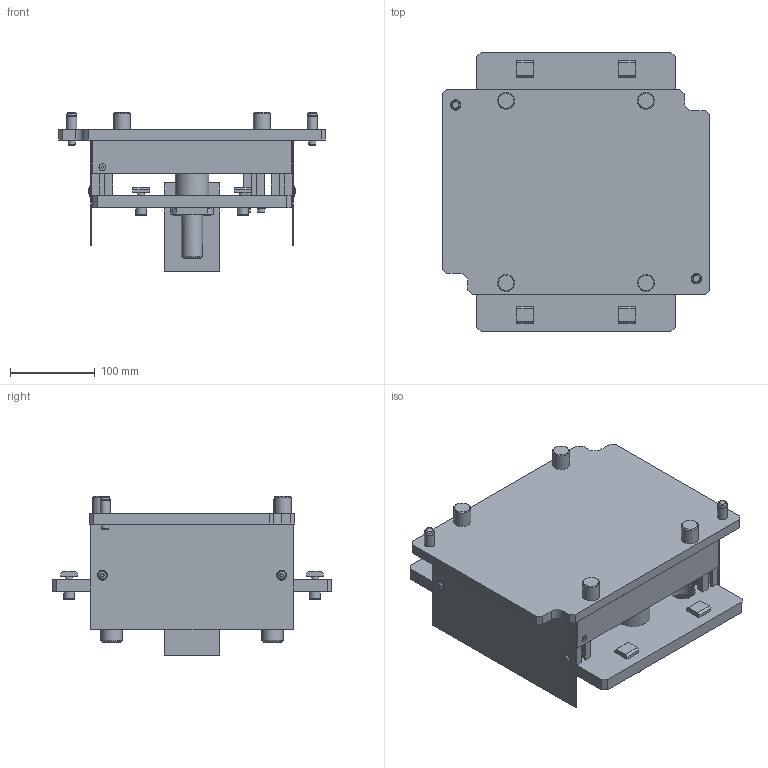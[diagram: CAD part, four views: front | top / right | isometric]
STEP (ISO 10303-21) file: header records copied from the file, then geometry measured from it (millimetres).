
FILE_DESCRIPTION(/* description */ (''),/* implementation_level */ '2;1');
FILE_NAME(/* name */ 'C:\Marketing\01_Versamove-SPU_STEP-Dateien-Homepage\VersamoveStandard\B320\Step-Dateien\Positioniereinheit_PE-2045_B320.stp',/* time_stamp */ '2016-12-19T15:09:20+01:00',/* author */ ('herbert.engels'),/* organization */ (''),/* preprocessor_version */ 'ST-DEVELOPER v15.6',/* originating_system */ 'Autodesk Inventor 2015',/* authorisation */ '');
FILE_SCHEMA (('CONFIG_CONTROL_DESIGN'));
Length unit declared in the file: millimetre
Products named in the file (1): Positioniereinheit_PE-2045_B320
Bounding box: 315 x 330 x 187.7 mm (x, y, z)
Volume: 3046967.9 mm3; surface area: 606917.8 mm2
Topology: 2 solids, 2 shells, 588 faces, 1600 edges, 1055 vertices
Faces by surface type: plane 433, cylinder 82, cone 44, torus 25, sphere 4
Full cylindrical faces by diameter (mm): 4 x4, 5 x9, 8 x4, 8.5 x5, 9 x2, 10 x2, 11.8 x4, 12 x2, 13 x8, 20 x4, 25 x4, 26.5 x2, 29 x2, 30 x2, 40 x2
Entity records: 18418 total; most frequent: CARTESIAN_POINT 3297, ORIENTED_EDGE 2912, DIRECTION 2784, EDGE_CURVE 1456, LINE 1106, VECTOR 1106, VERTEX_POINT 1020, AXIS2_PLACEMENT_3D 839
